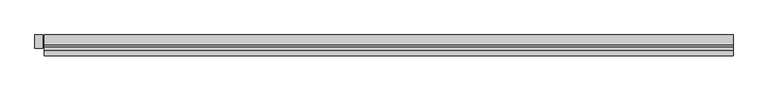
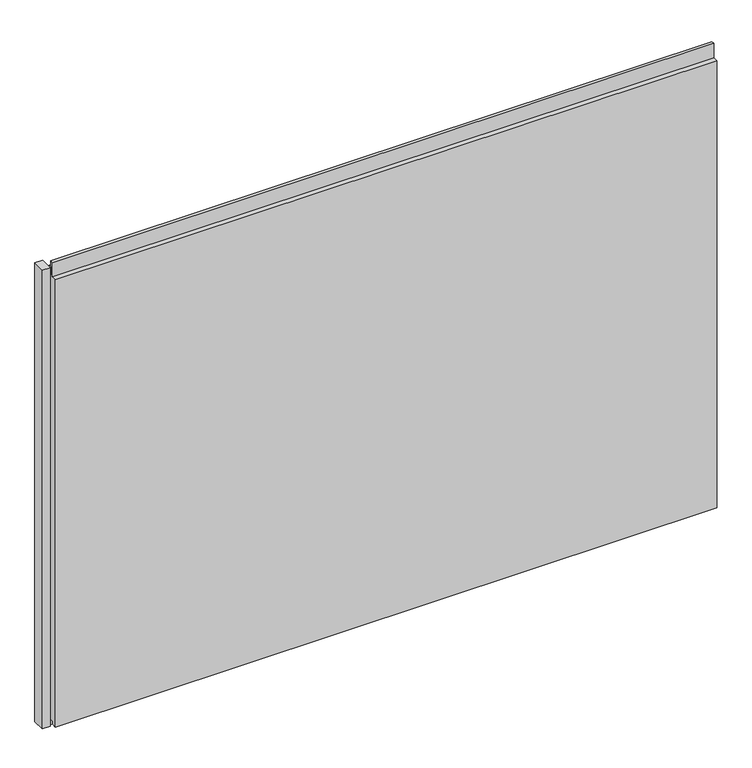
"""IFC4 building model written with IfcOpenShell, lengths in millimetres: plate geometry, Trimo_Qbiss Screen_Normal Panel-HORIZONTAL : HR - B-F."""

from ifc_helpers import new_model, si_unit, frame, origin, place, context, project, spatial, polyline, outline, extrude, source, transform, mapped, element, save


def plate_79a8b994(model_context):
    return source(origin(), model_context, "Body", "SweptSolid", [
        extrude(outline(polyline([(-840.5, 67.8978162), (-859.5, 67.8978162), (-859.5, 100.0), (-840.5, 100.0), (-840.5, 67.8978162)])), frame((0.0, 0.0, -1.0), z_axis=(0.0, 0.0, 1.0), x_axis=(1.0, 0.0, 0.0)), (0.0, 0.0, 1.0), 1200.0),
        extrude(outline(polyline([(800.0, 76.0), (800.0, 71.0), (-837.5, 71.0), (-837.5, 76.0), (800.0, 76.0)])), frame((0.0, 0.0, 1178.0), z_axis=(0.0, 0.0, 1.0), x_axis=(1.0, 0.0, 0.0)), (0.0, 0.0, 1.0), 21.0),
        extrude(outline(polyline([(71.0, 1177.0), (100.0, 1177.0), (100.0, 0.0), (72.0, 0.0), (72.0, 15.5), (62.0, 15.5), (62.0, 7.0), (50.0, 7.0), (50.0, 1177.0), (63.0, 1177.0), (63.0, 1214.5), (71.0, 1214.5), (71.0, 1177.0)])), frame((-837.5, 0.0, 0.0), z_axis=(1.0, 0.0, 0.0), x_axis=(0.0, 1.0, 0.0)), (0.0, 0.0, 1.0), 1637.5),
    ])


if __name__ == "__main__":
    model = new_model("IFC4")
    model_context = context("Model", 3, world=origin())
    ifc_project = project(units=[si_unit("LENGTHUNIT", "METRE", prefix="MILLI")], contexts=[model_context])
    site = spatial("IfcSite", under=ifc_project)
    building = spatial("IfcBuilding", under=site)
    placement = place(None, origin())
    plate_shape = plate_79a8b994(model_context)
    element("IfcPlate", 1, ObjectType="Trimo_Qbiss Screen_Normal Panel-HORIZONTAL : HR - B-F", at=placement, inside=building, context=model_context, shape_type="MappedRepresentation", body=[
        mapped(plate_shape, transform((0.0, 0.0, 0.0), x_axis=(1.0, 0.0, 0.0), y_axis=(0.0, 1.0, 0.0), z_axis=(0.0, 0.0, 1.0))),
    ])
    save(model, "model.ifc")
